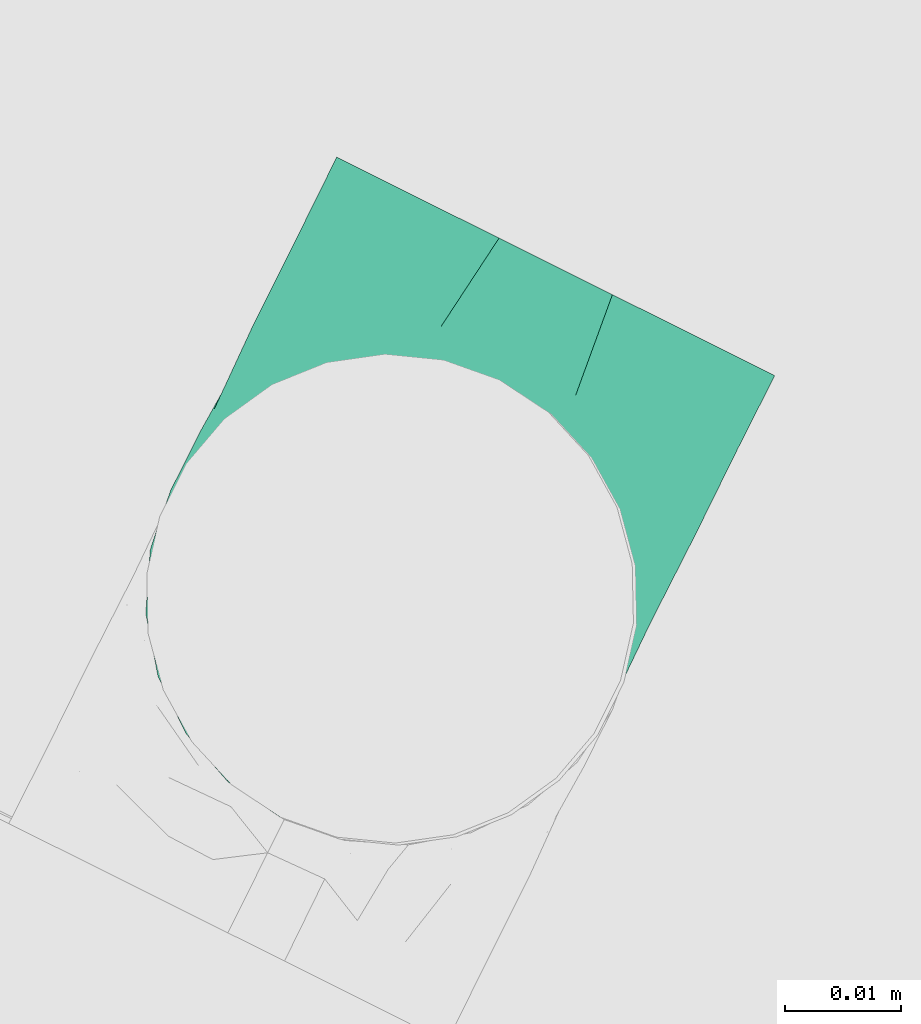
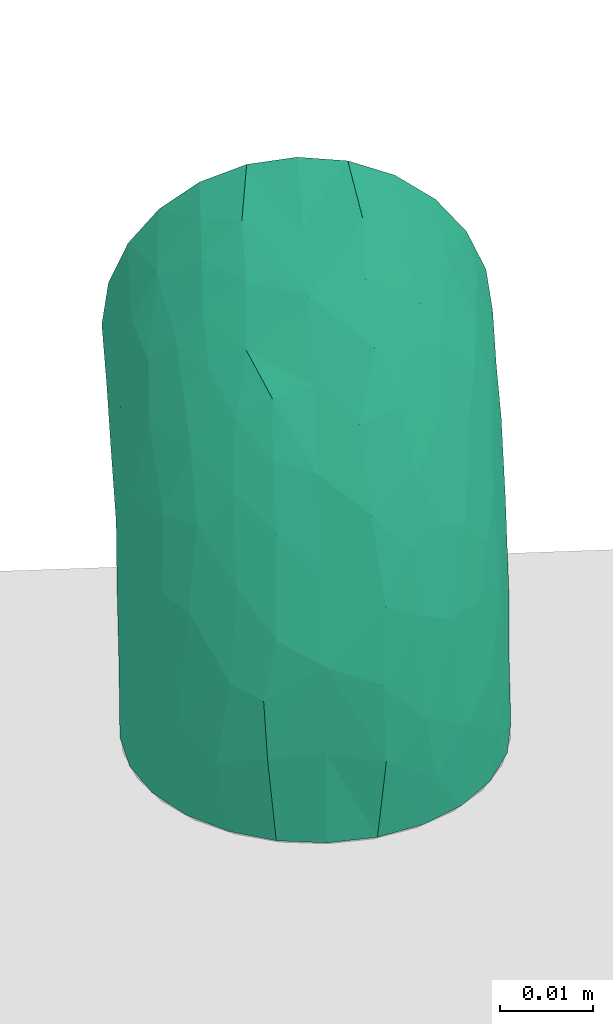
# One storey, part 40 of 47: 1 flow fitting.
"""IFC2X3 building model written with IfcOpenShell, lengths in metres."""

from ifc_helpers import new_model, entity, si_unit, converted_unit, derived_unit, direction, frame, origin, place, context, subcontext, project, spatial, faceted_brep, source, transform, mapped, type_object, type_shapes, element, save


model = new_model("IFC2X3")

# Units and contexts
model_context = context("Model", 3, precision=1e-05, world=origin(), true_north=direction((0.894925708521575, 0.446215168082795)))
context_of_model = context(None, 3, precision=1e-05, world=origin(), true_north=direction((0.894925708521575, 0.446215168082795)))
body_context = subcontext(model_context, "Body", "Model", "MODEL_VIEW")
ifc_project = project(units=[si_unit("LENGTHUNIT", "METRE"), si_unit("AREAUNIT", "SQUARE_METRE"), si_unit("VOLUMEUNIT", "CUBIC_METRE"), converted_unit("PLANEANGLEUNIT", "DEGREE", entity("IfcRatioMeasure", 0.0174532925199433), si_unit("PLANEANGLEUNIT", "RADIAN"), dimensions=[0, 0, 0, 0, 0, 0, 0]), si_unit("MASSUNIT", "GRAM", prefix="KILO"), si_unit("TIMEUNIT", "SECOND"), si_unit("FREQUENCYUNIT", "HERTZ"), si_unit("THERMODYNAMICTEMPERATUREUNIT", "DEGREE_CELSIUS"), derived_unit("THERMALTRANSMITTANCEUNIT", [(si_unit("MASSUNIT", "GRAM", prefix="KILO"), 1), (si_unit("THERMODYNAMICTEMPERATUREUNIT", "KELVIN"), -1), (si_unit("TIMEUNIT", "SECOND"), -3)]), derived_unit("VOLUMETRICFLOWRATEUNIT", [(si_unit("LENGTHUNIT", "METRE"), 3), (si_unit("TIMEUNIT", "SECOND"), -1)]), si_unit("ELECTRICCURRENTUNIT", "AMPERE"), si_unit("ELECTRICVOLTAGEUNIT", "VOLT"), si_unit("POWERUNIT", "WATT"), si_unit("FORCEUNIT", "NEWTON", prefix="KILO"), si_unit("ILLUMINANCEUNIT", "LUX"), si_unit("LUMINOUSFLUXUNIT", "LUMEN"), si_unit("LUMINOUSINTENSITYUNIT", "CANDELA"), si_unit("PRESSUREUNIT", "PASCAL")], contexts=[model_context, context_of_model])

# Site, building, storey
site_placement = place(None, frame((218.228324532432, 584.720189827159, 0.0), z_axis=(0.0, 0.0, 1.0), x_axis=(0.446215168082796, 0.894925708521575, 0.0)))
site = spatial("IfcSite", under=ifc_project, at=site_placement, Name="Default", CompositionType="ELEMENT")
building_placement = place(site_placement, origin())
building = spatial("IfcBuilding", under=site, at=building_placement, CompositionType="ELEMENT")
storey_placement = place(building_placement, frame((0.0, 0.0, 4.69)))
storey = spatial("IfcBuildingStorey", under=building, at=storey_placement, Name="1 - Piano Primo", CompositionType="ELEMENT", Elevation=4.69)

# Flow fitting
pipe_fitting_type = type_object("IfcPipeFittingType", Name="Standard", PredefinedType="NOTDEFINED")
shared_shape = source(origin(), body_context, "Body", "Brep", [
    faceted_brep([(-0.0319999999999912, 0.0105499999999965, -0.0182731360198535), (-0.0319999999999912, 0.00546108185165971, -0.0203810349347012), (-0.0319999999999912, 0.0, -0.0211000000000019), (-0.0319999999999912, -0.00546108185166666, -0.0203810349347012), (-0.0319999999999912, -0.0105500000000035, -0.0182731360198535), (-0.0319999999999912, -0.0149199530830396, -0.0149199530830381), (-0.0319999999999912, -0.0182731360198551, -0.0105500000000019), (-0.0319999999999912, -0.0203810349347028, -0.00546108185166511), (-0.0319999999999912, -0.0211000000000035, 0.0), (-0.0319999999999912, -0.0203810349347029, 0.00546108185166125), (-0.0319999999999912, -0.0182731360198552, 0.0105499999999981), (-0.0319999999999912, -0.0149199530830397, 0.0149199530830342), (-0.0319999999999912, -0.0105500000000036, 0.0182731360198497), (-0.0319999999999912, -0.00546108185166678, 0.0203810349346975), (-0.0319999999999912, 0.0, 0.0210999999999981), (-0.0319999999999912, 0.00546108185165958, 0.0203810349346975), (-0.0319999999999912, 0.00800554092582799, 0.0193270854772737), (-0.0319999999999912, 0.0105499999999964, 0.0182731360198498), (-0.0319999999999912, 0.0149199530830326, 0.0149199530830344), (-0.0319999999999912, 0.0182731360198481, 0.0105499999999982), (-0.0319999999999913, 0.0203810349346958, 0.00546108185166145), (-0.0319999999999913, 0.0210999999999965, 0.0), (-0.0319999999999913, 0.0203810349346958, -0.00546108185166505), (-0.0319999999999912, 0.0182731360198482, -0.0105500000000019), (-0.0319999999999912, 0.0149199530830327, -0.014919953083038), (0.0, 0.0319999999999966, -0.0211000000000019), (-0.00546108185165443, 0.0319999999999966, -0.0203810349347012), (-0.0105499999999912, 0.0319999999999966, -0.0182731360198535), (-0.0149199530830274, 0.0319999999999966, -0.014919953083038), (-0.0182731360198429, 0.0319999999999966, -0.0105500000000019), (-0.0203810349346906, 0.0319999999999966, -0.00546108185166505), (-0.0210999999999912, 0.0319999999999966, 0.0), (-0.0203810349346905, 0.0319999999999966, 0.00546108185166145), (-0.0182731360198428, 0.0319999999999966, 0.0105499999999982), (-0.0149199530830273, 0.0319999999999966, 0.0149199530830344), (-0.0105499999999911, 0.0319999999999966, 0.0182731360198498), (-0.00800554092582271, 0.0319999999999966, 0.0193270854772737), (-0.0054610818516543, 0.0319999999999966, 0.0203810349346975), (0.0, 0.0319999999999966, 0.0210999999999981), (0.00546108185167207, 0.0319999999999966, 0.0203810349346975), (0.0105500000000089, 0.0319999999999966, 0.0182731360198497), (0.014919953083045, 0.0319999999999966, 0.0149199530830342), (0.0165965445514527, 0.0319999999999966, 0.0127349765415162), (0.0182731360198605, 0.0319999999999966, 0.0105499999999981), (0.0203810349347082, 0.0319999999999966, 0.00546108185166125), (0.0211000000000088, 0.0319999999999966, 0.0), (0.0203810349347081, 0.0319999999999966, -0.00546108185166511), (0.0182731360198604, 0.0319999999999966, -0.0105500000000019), (0.0149199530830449, 0.0319999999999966, -0.0149199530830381), (0.0105500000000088, 0.0319999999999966, -0.0182731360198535), (0.00546108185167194, 0.0319999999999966, -0.0203810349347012), (-0.00222604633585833, 0.023728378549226, 0.0210713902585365), (0.00334042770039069, 0.0236615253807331, 0.0206549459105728), (-0.00900645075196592, -0.00960577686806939, 0.014276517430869), (-0.0209292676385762, -0.0130218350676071, 0.0154568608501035), (-0.0145908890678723, -0.0153912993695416, 0.0101692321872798), (-0.0217190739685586, -0.0190549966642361, 0.0), (-0.0220282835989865, -0.0191631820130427, 0.00633714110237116), (0.0170981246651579, 0.0147219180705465, 0.00657454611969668), (0.0192914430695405, 0.0230467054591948, 0.00652112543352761), (0.0165175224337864, 0.0200572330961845, 0.0110652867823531), (-0.0238201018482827, -0.0169140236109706, 0.0116484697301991), (0.00422109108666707, 0.00733524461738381, 0.0174775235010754), (-0.00183936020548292, -0.00157306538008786, 0.0165161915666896), (0.00494762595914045, 0.000859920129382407, 0.0133740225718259), (-0.0231100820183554, -0.0085835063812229, 0.0188172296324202), (-0.0268497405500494, 0.00624646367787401, 0.0203052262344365), (-0.0237283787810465, 0.00222604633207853, 0.0210713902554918), (0.00636919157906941, -0.00389652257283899, 0.00481660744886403), (0.00885765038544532, 0.00100436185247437, 0.00856309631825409), (0.00317363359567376, -0.0049364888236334, 0.00916667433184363), (0.0190549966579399, 0.021719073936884, 0.0), (-0.0249753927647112, 0.0127272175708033, 0.0176991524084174), (-0.0219437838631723, 0.00803535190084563, 0.0202256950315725), (-0.0080353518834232, 0.0219437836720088, 0.0202256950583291), (-0.0127272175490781, 0.0249753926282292, 0.017699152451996), (-0.0135012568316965, 0.0177999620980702, 0.0192321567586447), (-0.0259094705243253, 0.0169310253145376, 0.0140445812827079), (-0.0243638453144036, -0.00336513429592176, 0.0206817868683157), (-0.0083182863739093, -0.00215621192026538, 0.0188085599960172), (-0.0155459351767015, -0.00207489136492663, 0.0202758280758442), (-0.014962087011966, -0.00661982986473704, 0.0184646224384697), (-0.024116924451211, 0.0234834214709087, 0.00540852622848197), (-0.0260761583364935, 0.02023403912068, 0.00952662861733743), (0.0131866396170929, 0.0228304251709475, 0.0156902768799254), (0.0177597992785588, 0.0259911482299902, 0.0108087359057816), (-0.0196183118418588, 0.0196183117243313, 0.0153381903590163), (0.00836704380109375, 0.0205044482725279, 0.0185948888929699), (-0.0054260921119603, 0.0157915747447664, 0.0210819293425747), (-0.0119915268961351, 0.0119915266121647, 0.0207723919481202), (-0.00791438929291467, 0.00583732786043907, 0.0207972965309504), (-0.000718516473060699, -0.00512241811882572, 0.0130949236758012), (-0.0157915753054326, 0.00542609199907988, 0.0210819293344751), (-0.0175404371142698, 0.0125520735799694, 0.0196189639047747), (-0.00624646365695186, 0.0268497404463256, 0.0203052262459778), (-0.0030660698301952, -0.011302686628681, 0.0), (0.000544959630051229, -0.00927179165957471, 0.00474379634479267), (-0.00924044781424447, -0.0152715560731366, 0.00513668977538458), (-0.0025011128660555, 0.00396354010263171, 0.0192243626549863), (0.0111873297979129, 0.0121560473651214, 0.0142858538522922), (0.0142348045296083, 0.013520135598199, 0.0113438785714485), (-0.021173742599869, 0.0270533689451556, 0.00642753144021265), (0.0170580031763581, 0.0116795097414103, 0.0), (-0.0209433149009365, 0.0244619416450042, 0.0099283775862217), (-0.0169310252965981, 0.0259094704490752, 0.0140445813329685), (0.00815725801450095, 0.0134412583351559, 0.0171881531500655), (0.00158972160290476, 0.0138945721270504, 0.0201812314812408), (-0.0242925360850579, 0.0242925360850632, 0.0), (-0.0156139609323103, -0.0173765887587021, 0.00665048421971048), (-0.0116795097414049, -0.0170580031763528, 0.0), (0.00554737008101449, -0.00554737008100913, 0.0), (0.0113026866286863, 0.00306606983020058, 0.0), (0.0108450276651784, 0.00147671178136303, 0.0045400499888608), (0.0112958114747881, 0.00704585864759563, 0.0110546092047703), (-0.0180945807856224, 0.016544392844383, 0.0178760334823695), (-0.00497912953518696, -0.0112747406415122, 0.00913935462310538), (-0.00893572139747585, -0.00624353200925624, 0.0168798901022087), (-0.0156916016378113, 0.021034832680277, 0.0171095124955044), (-0.00342686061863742, 0.0112043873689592, 0.0208340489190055), (0.0134913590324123, 0.00703921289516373, 0.00704441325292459), (0.00841568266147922, 0.00627762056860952, 0.0138629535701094), (0.0139147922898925, 0.0140606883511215, -0.0120870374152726), (0.0170731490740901, 0.0143997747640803, -0.00631163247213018), (0.0133973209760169, 0.00669108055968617, -0.00679612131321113), (-0.0167699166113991, 0.00347561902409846, -0.0210973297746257), (-0.0230301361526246, 0.00785302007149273, -0.0201559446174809), (-0.0147344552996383, 0.0101848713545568, -0.0206819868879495), (-0.0249600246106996, 0.0021654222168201, -0.0210570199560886), (-0.0269235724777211, 0.0219306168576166, -0.00396891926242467), (-0.0108637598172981, -0.00653031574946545, -0.0173920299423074), (-0.0194617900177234, -0.00823414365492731, -0.018502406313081), (-0.0125598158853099, -0.00220699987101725, -0.0197802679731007), (-0.0268338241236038, 0.0205122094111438, -0.00828818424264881), (-0.024883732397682, 0.0171837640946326, -0.0142474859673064), (-0.0228721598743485, -0.0192710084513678, -0.00648971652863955), (-0.0193464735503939, -0.0164084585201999, -0.0109522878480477), (-0.0143997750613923, -0.0170731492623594, -0.00631163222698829), (-0.0266001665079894, -0.0170138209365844, -0.0120648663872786), (-0.00785301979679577, 0.0230301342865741, -0.0201559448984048), (-0.0252598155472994, 0.0126864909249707, -0.0176618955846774), (-0.0230841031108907, -0.0033100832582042, -0.0206322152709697), (-0.020019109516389, 0.0119073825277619, -0.0192649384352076), (-0.0225715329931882, -0.0131689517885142, -0.0156588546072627), (0.0164084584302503, 0.0193464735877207, -0.0109522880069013), (0.0170138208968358, 0.0266001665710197, -0.0120648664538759), (0.019271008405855, 0.0228721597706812, -0.00648971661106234), (-0.0105318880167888, -0.0106441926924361, -0.0140486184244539), (-0.017183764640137, 0.0248837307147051, -0.014247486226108), (-0.0266864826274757, -0.0086126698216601, -0.0191036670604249), (0.0033100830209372, 0.0230841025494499, -0.0206322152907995), (-0.0222937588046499, 0.0222937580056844, -0.0105497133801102), (-0.020353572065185, 0.0203535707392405, -0.0142844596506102), (-0.0221527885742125, 0.0262370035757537, -0.00460941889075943), (-0.00807833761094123, 0.00807833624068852, -0.0210204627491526), (-0.0126864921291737, 0.0252598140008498, -0.0176618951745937), (-0.0021654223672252, 0.0249600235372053, -0.0210570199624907), (0.0131689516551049, 0.022571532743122, -0.0156588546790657), (-0.0202234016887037, 0.0270426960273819, -0.00870077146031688), (0.00220699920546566, 0.0125598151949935, -0.0197802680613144), (0.00404629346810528, 0.00564706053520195, -0.0168858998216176), (-0.00350668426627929, 0.00350668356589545, -0.0194008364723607), (0.00861266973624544, 0.0266864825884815, -0.019103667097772), (0.00823414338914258, 0.019461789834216, -0.0185024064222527), (0.00902992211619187, 0.00178506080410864, -0.00926949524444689), (0.00883192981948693, -0.00110649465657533, -0.00471271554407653), (-0.00347562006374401, 0.0167699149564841, -0.0210973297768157), (0.0120396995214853, 0.00786660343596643, -0.010643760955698), (-0.00165984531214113, -0.00597168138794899, -0.0130195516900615), (-0.00858690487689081, -0.0124343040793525, -0.0106324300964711), (0.0106441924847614, 0.0105318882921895, -0.0140486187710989), (0.00627836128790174, 0.0123278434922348, -0.0179828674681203), (-0.0164380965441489, 0.0206141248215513, -0.0168366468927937), (-0.0160857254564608, 0.0160857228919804, -0.0188434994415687), (-0.0206141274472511, 0.0164380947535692, -0.0168366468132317), (-0.0106154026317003, 0.0161949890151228, -0.0203950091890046), (-0.00669108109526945, -0.0133973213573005, -0.00679612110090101), (0.00175955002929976, -0.00801862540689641, -0.00555203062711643), (-0.00301871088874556, -0.00338565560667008, -0.0160140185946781), (0.0034281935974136, -0.00342819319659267, -0.0108392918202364), (-0.00243028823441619, -0.00914614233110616, -0.00983204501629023), (-0.00670255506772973, -0.00186855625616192, -0.0184300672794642), (0.00640730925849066, 0.00275638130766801, -0.0134309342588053)], [[[0, 1, 2, 3, 4, 5, 6, 7, 8, 9, 10, 11, 12, 13, 14, 15, 16, 17, 18, 19, 20, 21, 22, 23, 24]], [[25, 26, 27, 28, 29, 30, 31, 32, 33, 34, 35, 36, 37, 38, 39, 40, 41, 42, 43, 44, 45, 46, 47, 48, 49, 50]], [[38, 51, 52]], [[53, 54, 55]], [[9, 56, 57]], [[58, 59, 60]], [[61, 11, 10]], [[9, 8, 56]], [[62, 63, 64]], [[54, 11, 61]], [[54, 65, 12]], [[17, 16, 15, 66]], [[15, 14, 67]], [[68, 69, 70]], [[45, 44, 71]], [[72, 66, 73]], [[74, 75, 76]], [[77, 19, 18]], [[78, 14, 13]], [[66, 72, 17]], [[79, 80, 81]], [[82, 20, 83]], [[84, 85, 41]], [[21, 20, 82]], [[83, 77, 86]], [[87, 84, 40]], [[72, 18, 17]], [[88, 89, 90]], [[70, 64, 91]], [[73, 92, 93]], [[39, 38, 52]], [[73, 67, 92]], [[84, 41, 40]], [[40, 39, 87]], [[36, 35, 94, 37]], [[59, 44, 43]], [[95, 96, 97]], [[35, 34, 75]], [[63, 62, 98]], [[85, 59, 43]], [[64, 70, 69]], [[74, 88, 51]], [[99, 100, 84]], [[101, 33, 32]], [[59, 102, 71]], [[103, 86, 104]], [[105, 106, 62]], [[82, 101, 107]], [[9, 57, 10]], [[94, 35, 75]], [[77, 83, 19]], [[97, 108, 109]], [[34, 33, 104]], [[51, 38, 37]], [[107, 101, 31]], [[12, 65, 13]], [[54, 12, 11]], [[110, 111, 112]], [[100, 99, 113]], [[109, 57, 56]], [[57, 108, 61]], [[104, 75, 34]], [[74, 76, 89]], [[88, 74, 89]], [[106, 87, 52]], [[78, 67, 14]], [[80, 90, 92]], [[93, 89, 76]], [[72, 114, 77]], [[70, 91, 115]], [[63, 79, 116]], [[115, 53, 55]], [[70, 96, 68]], [[58, 60, 100]], [[71, 44, 59]], [[84, 87, 105]], [[85, 43, 42, 41]], [[81, 54, 53]], [[65, 81, 78]], [[106, 52, 51]], [[87, 39, 52]], [[103, 104, 33]], [[104, 86, 117]], [[72, 77, 18]], [[83, 86, 103]], [[82, 83, 103]], [[20, 19, 83]], [[57, 61, 10]], [[54, 61, 55]], [[101, 82, 103]], [[82, 107, 21]], [[65, 78, 13]], [[67, 78, 80]], [[86, 114, 117]], [[114, 72, 93]], [[92, 89, 93]], [[106, 51, 88]], [[98, 79, 63]], [[118, 88, 90]], [[80, 92, 67]], [[90, 89, 92]], [[119, 102, 58]], [[102, 59, 58]], [[114, 93, 76]], [[72, 73, 93]], [[55, 97, 115]], [[96, 70, 115]], [[108, 97, 55]], [[96, 110, 68]], [[95, 97, 109]], [[97, 96, 115]], [[110, 96, 95]], [[112, 119, 69]], [[68, 112, 69]], [[119, 113, 69]], [[102, 119, 111]], [[64, 63, 91]], [[113, 64, 69]], [[118, 98, 106]], [[113, 120, 64]], [[62, 120, 105]], [[119, 58, 100]], [[113, 99, 120]], [[100, 113, 119]], [[84, 100, 60]], [[110, 112, 68]], [[111, 119, 112]], [[117, 76, 75]], [[114, 86, 77]], [[76, 117, 114]], [[104, 117, 75]], [[106, 98, 62]], [[79, 90, 80]], [[90, 79, 98]], [[78, 81, 80]], [[54, 81, 65]], [[116, 79, 81]], [[105, 120, 99]], [[62, 64, 120]], [[116, 91, 63]], [[115, 91, 53]], [[81, 53, 116]], [[116, 53, 91]], [[94, 75, 74]], [[74, 51, 94]], [[51, 37, 94]], [[73, 66, 67]], [[15, 67, 66]], [[85, 84, 60]], [[59, 85, 60]], [[33, 101, 103]], [[31, 101, 32]], [[98, 118, 90]], [[106, 88, 118]], [[61, 108, 55]], [[109, 108, 57]], [[84, 105, 99]], [[106, 105, 87]], [[121, 122, 123]], [[124, 125, 126]], [[124, 127, 125]], [[127, 2, 1]], [[21, 128, 22]], [[129, 130, 131]], [[132, 133, 23]], [[134, 135, 136]], [[24, 23, 133]], [[5, 137, 6]], [[26, 138, 27]], [[0, 24, 139]], [[109, 56, 134]], [[140, 3, 2]], [[134, 7, 6]], [[125, 141, 126]], [[142, 5, 4]], [[143, 144, 145]], [[135, 142, 146]], [[29, 28, 147]], [[137, 134, 6]], [[4, 148, 142]], [[148, 140, 130]], [[148, 4, 3]], [[50, 149, 25]], [[130, 140, 131]], [[21, 107, 128]], [[150, 151, 133]], [[31, 30, 152]], [[46, 45, 71]], [[126, 153, 124]], [[132, 22, 128]], [[154, 147, 28]], [[26, 155, 138]], [[26, 25, 155]], [[48, 156, 49]], [[144, 48, 47]], [[150, 157, 147]], [[158, 159, 160]], [[161, 149, 50]], [[161, 156, 162]], [[125, 1, 0]], [[163, 123, 164]], [[165, 149, 158]], [[157, 150, 152]], [[161, 50, 49]], [[139, 24, 133]], [[145, 122, 143]], [[121, 123, 166]], [[56, 8, 7]], [[146, 167, 168]], [[169, 162, 156]], [[159, 158, 170]], [[47, 46, 145]], [[171, 172, 173]], [[150, 132, 152]], [[28, 27, 154]], [[165, 153, 174]], [[151, 150, 147]], [[139, 141, 125]], [[123, 102, 111]], [[95, 175, 176]], [[164, 123, 111]], [[159, 177, 160]], [[178, 176, 179]], [[178, 164, 176]], [[144, 156, 48]], [[156, 143, 121]], [[158, 149, 162]], [[155, 149, 165]], [[170, 169, 159]], [[158, 160, 153]], [[146, 142, 130]], [[137, 142, 135]], [[127, 140, 2]], [[124, 153, 131]], [[124, 131, 140]], [[180, 129, 131]], [[168, 136, 135]], [[56, 7, 134]], [[46, 71, 145]], [[102, 145, 71]], [[27, 138, 154]], [[154, 138, 174]], [[173, 133, 151]], [[125, 0, 139]], [[169, 166, 181]], [[178, 179, 167]], [[177, 159, 181]], [[146, 130, 129]], [[125, 127, 1]], [[140, 127, 124]], [[149, 155, 25]], [[138, 155, 165]], [[174, 126, 172]], [[126, 174, 153]], [[158, 153, 165]], [[131, 153, 160]], [[175, 109, 136]], [[109, 134, 136]], [[145, 102, 122]], [[102, 123, 122]], [[152, 128, 107]], [[128, 152, 132]], [[31, 152, 107]], [[152, 30, 157]], [[133, 132, 150]], [[23, 22, 132]], [[30, 29, 157]], [[147, 157, 29]], [[154, 174, 172]], [[165, 174, 138]], [[176, 164, 110]], [[164, 111, 110]], [[163, 164, 178]], [[95, 109, 175]], [[176, 175, 179]], [[176, 110, 95]], [[181, 163, 178]], [[166, 123, 163]], [[181, 178, 167]], [[169, 181, 159]], [[181, 166, 163]], [[121, 166, 169]], [[156, 121, 169]], [[122, 121, 143]], [[168, 179, 175]], [[167, 146, 177]], [[136, 168, 175]], [[135, 146, 168]], [[167, 179, 168]], [[181, 167, 177]], [[180, 131, 160]], [[146, 129, 177]], [[160, 177, 180]], [[177, 129, 180]], [[156, 161, 49]], [[149, 161, 162]], [[145, 144, 47]], [[156, 144, 143]], [[140, 148, 3]], [[142, 148, 130]], [[142, 137, 5]], [[134, 137, 135]], [[171, 151, 147]], [[151, 171, 173]], [[147, 154, 171]], [[154, 172, 171]], [[141, 173, 172]], [[139, 133, 173]], [[173, 141, 139]], [[126, 141, 172]], [[158, 162, 170]], [[169, 170, 162]]]),
])
type_shapes(pipe_fitting_type, [shared_shape])
flow_fitting_placement = place(storey_placement, frame((66.9689761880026, -1.7735369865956, 5.12000000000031), z_axis=(3.28504147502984e-06, 1.0, 3.11912500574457e-06), x_axis=(0.0, -3.1191250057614e-06, 1.0)))
element("IfcFlowFitting", 1, at=flow_fitting_placement, inside=storey, type_object=pipe_fitting_type, Name="M_Gomito - Saldato - Generico:Standard", ObjectType="Standard", context=body_context, shape_type="MappedRepresentation", body=[
    mapped(shared_shape, transform((0.0, 0.0, 0.0), scale=1.0)),
])

save(model, "model.ifc")
